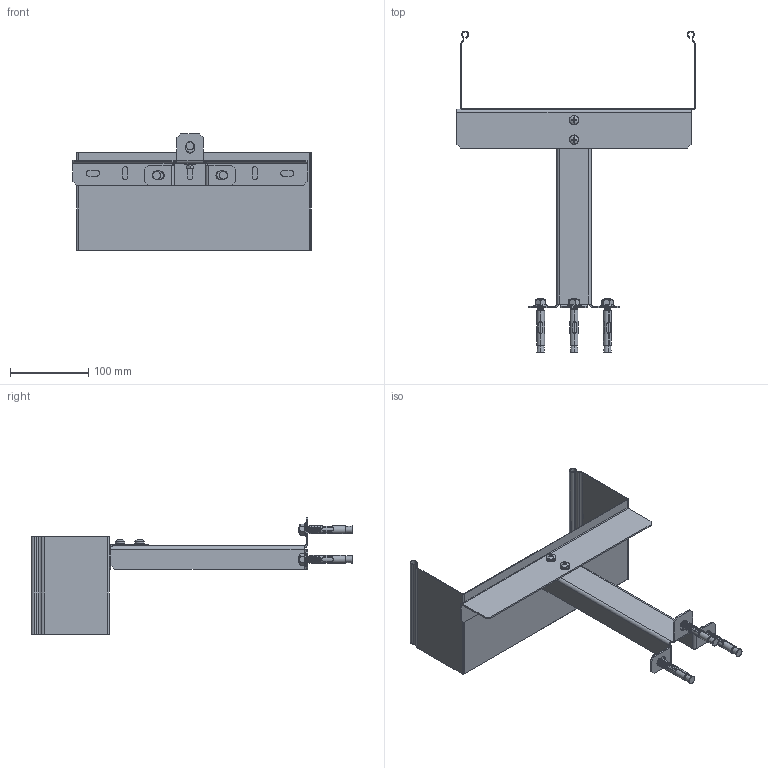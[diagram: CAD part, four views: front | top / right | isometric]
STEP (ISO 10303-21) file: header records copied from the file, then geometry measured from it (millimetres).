
FILE_DESCRIPTION (( 'STEP AP214' ), '1' );
FILE_NAME ('ﾑﾏﾍ+ﾋﾏﾌﾇﾒ(ﾌ)+ﾏﾑ300.STEP', '2016-10-05T20:06:46', ( '' ), ( '' ), 'SwSTEP 2.0', 'SolidWorks 2016', '' );
FILE_SCHEMA (( 'AUTOMOTIVE_DESIGN' ));
Length unit declared in the file: millimetre
Products named in the file (11): ﾑﾏﾍ+ﾋﾏﾌﾇﾒ(ﾌ)+ﾏﾑ300; 068069 ﾘﾌ6_丐ｩ｡ A.6 ヮ葬 11371-78; hex flange nut_din_Hexagon Flange Nut DIN 6923 - M6 - N; pan head cross recess screw_din_ISO 7045 - M6 x 10 - Z --- 10N; 062889 ﾀﾁﾌ885; Hexagon Flange Nut DIN 6923 - M8 - N_Hexagon Flange Nut DIN 6923 - M8 - N; 栺歑緪薤 鳧耪譇; 秮鶋罻 鳧耪譇; 050411-050461 - ﾏﾑ_150431 書ｭ-300; 050301 - ﾑﾏﾍ; Ëîòîê Îáðàç_300å100
Assembly tree (15 placements, depth 3):
  ﾑﾏﾍ+ﾋﾏﾌﾇﾒ(ﾌ)+ﾏﾑ300
    Ëîòîê Îáðàç_300å100
    050301 - ﾑﾏﾍ
    050411-050461 - ﾏﾑ_150431 書ｭ-300
    062889 ﾀﾁﾌ885  x3
      秮鶋罻 鳧耪譇
      栺歑緪薤 鳧耪譇
      Hexagon Flange Nut DIN 6923 - M8 - N_Hexagon Flange Nut DIN 6923 - M8 - N
    pan head cross recess screw_din_ISO 7045 - M6 x 10 - Z --- 10N  x2
    hex flange nut_din_Hexagon Flange Nut DIN 6923 - M6 - N  x2
    068069 ﾘﾌ6_丐ｩ｡ A.6 ヮ葬 11371-78  x2
Bounding box: 305 x 412 x 149.18 mm (x, y, z)
Volume: 176899.7 mm3; surface area: 256310.8 mm2
Topology: 18 solids, 18 shells, 615 faces, 1474 edges, 896 vertices
Faces by surface type: plane 270, cylinder 155, cone 96, bspline 72, torus 18, sphere 4
Entity records: 15944 total; most frequent: CARTESIAN_POINT 7258, ORIENTED_EDGE 1732, DIRECTION 1686, EDGE_CURVE 866, AXIS2_PLACEMENT_3D 616, VERTEX_POINT 525, VECTOR 454, LINE 454
